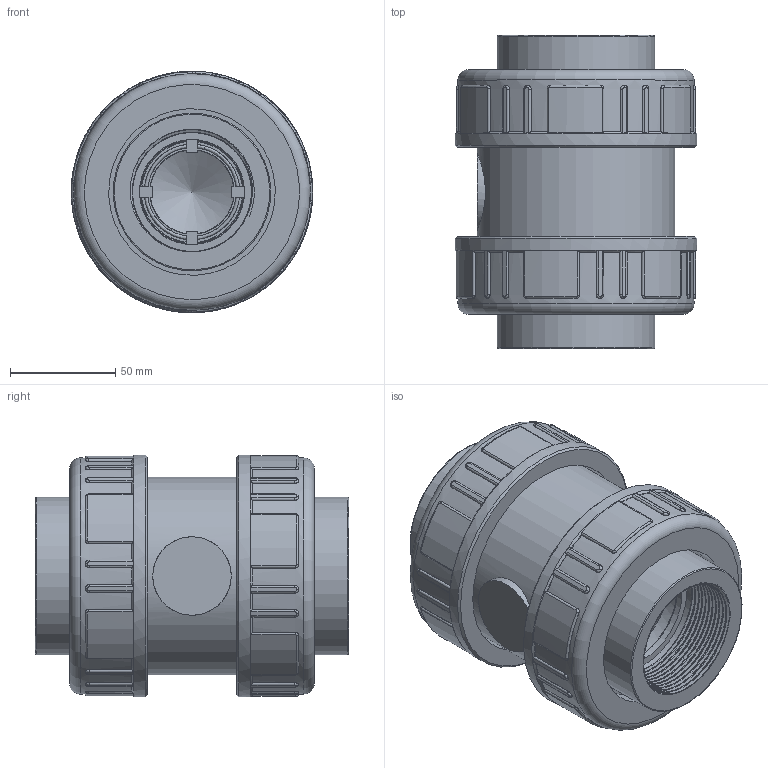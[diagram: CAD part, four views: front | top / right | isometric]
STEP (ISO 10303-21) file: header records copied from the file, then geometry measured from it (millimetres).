
FILE_DESCRIPTION(/* description */ (''),/* implementation_level */ '2;1');
FILE_NAME(/* name */ 'C:\Users\POLYPIPE\Desktop\DATASET INVENTOR\LIBRERIA EFFAST\3D_VALVOLE\3D_VALVOLE NON RITORNO\3D_CV\3D_CERCVE\3D_CERCVE063G.stp',/* time_stamp */ '2018-01-24T17:25:19+01:00',/* author */ ('POLYPIPE'),/* organization */ (''),/* preprocessor_version */ 'ST-DEVELOPER v16.1',/* originating_system */ 'Autodesk Inventor 2016',/* authorisation */ '');
FILE_SCHEMA (('CONFIG_CONTROL_DESIGN'));
Products named in the file (1): 3D_CERCVE063G
Bounding box: 115 x 149 x 115 mm (x, y, z)
Volume: 690744.8 mm3; surface area: 192765.2 mm2
Topology: 1 solids, 3 shells, 559 faces, 1502 edges, 954 vertices
Faces by surface type: plane 196, bspline 157, cylinder 148, torus 48, cone 10
Full cylindrical faces by diameter (mm): 46.7 x1, 47.2 x1, 48.7 x1, 50 x3, 54.2 x1, 55 x1, 56.656 x2, 57.8 x1, 61 x1, 66.3 x1, 66.8 x1, 71.7 x1, 75 x2, 79.3 x2, 80.3 x1, 80.6 x1, 89 x2, 94 x1, 96.5 x2, 112.4 x2, 115 x2
Entity records: 70802 total; most frequent: CARTESIAN_POINT 57458, ORIENTED_EDGE 2826, DIRECTION 2315, EDGE_CURVE 1413, VERTEX_POINT 930, AXIS2_PLACEMENT_3D 883, EDGE_LOOP 655, STYLED_ITEM 560
